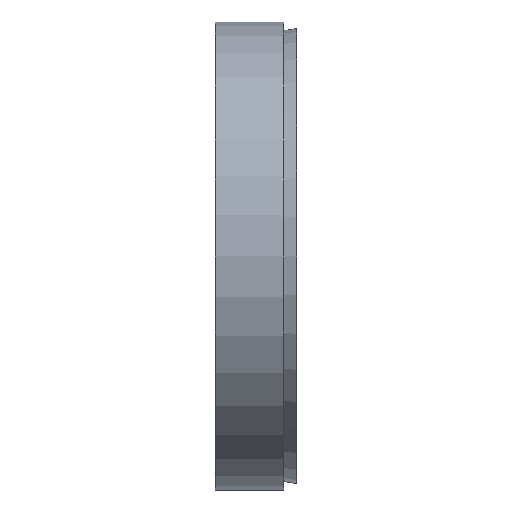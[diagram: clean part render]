
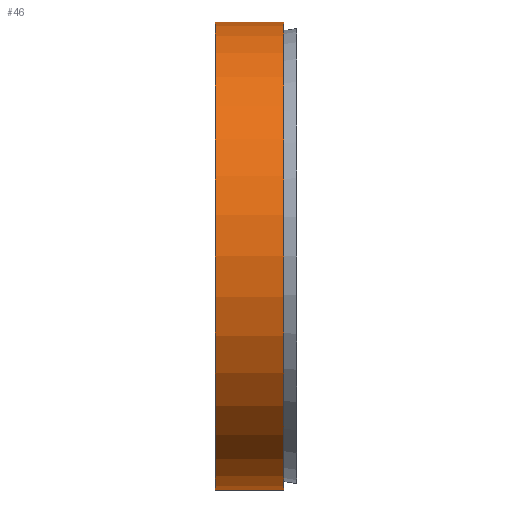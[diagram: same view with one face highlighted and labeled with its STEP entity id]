
A CAD part, left-side view. The second image highlights one B-rep face of the part: STEP entity #46.
In plain terms, the highlighted cylindrical face has radius 18 mm (diameter 36 mm), a full revolution.
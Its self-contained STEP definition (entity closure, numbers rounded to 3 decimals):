
#46 = ADVANCED_FACE( '', ( #93, #94 ), #95, .T. );
#93 = FACE_OUTER_BOUND( '', #132, .T. );
#94 = FACE_OUTER_BOUND( '', #133, .T. );
#95 = CYLINDRICAL_SURFACE( '', #134, 18. );
#132 = EDGE_LOOP( '', ( #179 ) );
#133 = EDGE_LOOP( '', ( #180 ) );
#134 = AXIS2_PLACEMENT_3D( '', #181, #182, #183 );
#179 = ORIENTED_EDGE( '', *, *, #189, .F. );
#180 = ORIENTED_EDGE( '', *, *, #198, .T. );
#181 = CARTESIAN_POINT( '', ( 0., -60., 0. ) );
#182 = DIRECTION( '', ( 0., 1., 0. ) );
#183 = DIRECTION( '', ( 0., 0., -1. ) );
#189 = EDGE_CURVE( '', #208, #208, #209, .T. );
#198 = EDGE_CURVE( '', #221, #221, #222, .T. );
#208 = VERTEX_POINT( '', #232 );
#209 = CIRCLE( '', #233, 18. );
#221 = VERTEX_POINT( '', #245 );
#222 = CIRCLE( '', #246, 18. );
#232 = CARTESIAN_POINT( '', ( 0., 1., -18. ) );
#233 = AXIS2_PLACEMENT_3D( '', #257, #258, #259 );
#245 = CARTESIAN_POINT( '', ( 0., 6.3, -18. ) );
#246 = AXIS2_PLACEMENT_3D( '', #269, #270, #271 );
#257 = CARTESIAN_POINT( '', ( 0., 1., 0. ) );
#258 = DIRECTION( '', ( 0., -1., 0. ) );
#259 = DIRECTION( '', ( 0., 0., -1. ) );
#269 = CARTESIAN_POINT( '', ( 0., 6.3, 0. ) );
#270 = DIRECTION( '', ( 0., -1., 0. ) );
#271 = DIRECTION( '', ( 0., 0., -1. ) );
